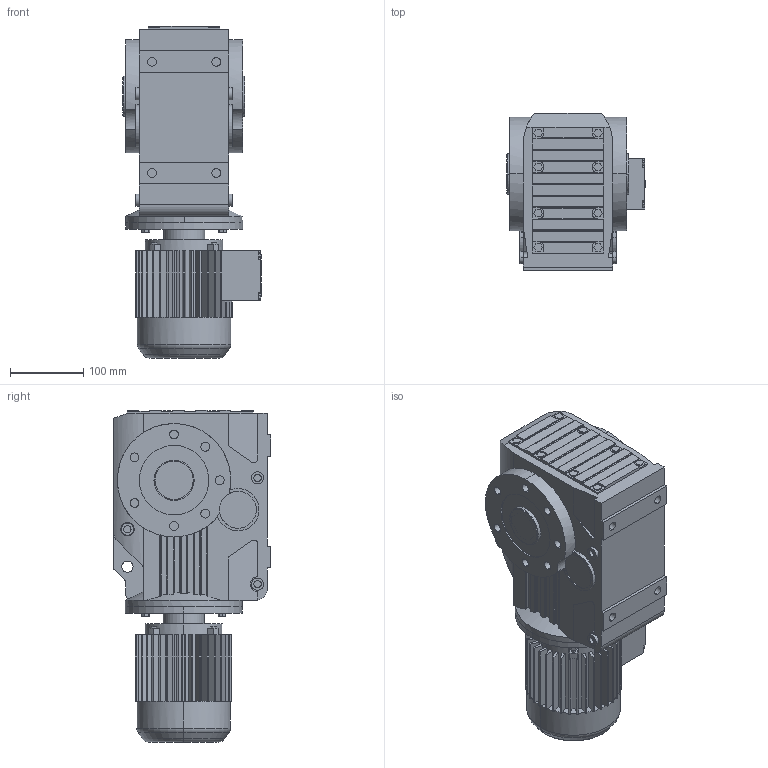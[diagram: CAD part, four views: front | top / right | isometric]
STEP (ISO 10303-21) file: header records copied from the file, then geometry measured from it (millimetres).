
FILE_DESCRIPTION(('Open CASCADE Model'),'2;1');
FILE_NAME('Open CASCADE Shape Model','2018-09-13T10:57:29',('Author'),( 'Open CASCADE'),'Open CASCADE STEP processor 6.3','Open CASCADE 6.3' ,'Unknown');
FILE_SCHEMA(('AUTOMOTIVE_DESIGN_CC2 { 1 2 10303 214 -1 1 5 4 }'));
Length unit declared in the file: millimetre
Products named in the file (4): 35_KA57DR63-A; KA37‵107_57.step; 萇儂_160-DR63-185-240-132-105.step; す瑩諾陑粣K_57.step
Assembly tree (3 placements, depth 2):
  35_KA57DR63-A
    KA37‵107_57.step
    萇儂_160-DR63-185-240-132-105.step
    す瑩諾陑粣K_57.step
Bounding box: 189.33 x 215 x 454 mm (x, y, z)
Volume: 9106992.2 mm3; surface area: 560799.8 mm2
Topology: 3 solids, 3 shells, 848 faces, 2210 edges, 1437 vertices
Faces by surface type: plane 562, cylinder 276, cone 6, torus 4
Entity records: 62838 total; most frequent: CARTESIAN_POINT 21365, DIRECTION 6953, ORIENTED_EDGE 4420, PCURVE 4420, DEFINITIONAL_REPRESENTATION 4420, LINE 3641, VECTOR 3641, EDGE_CURVE 2210
